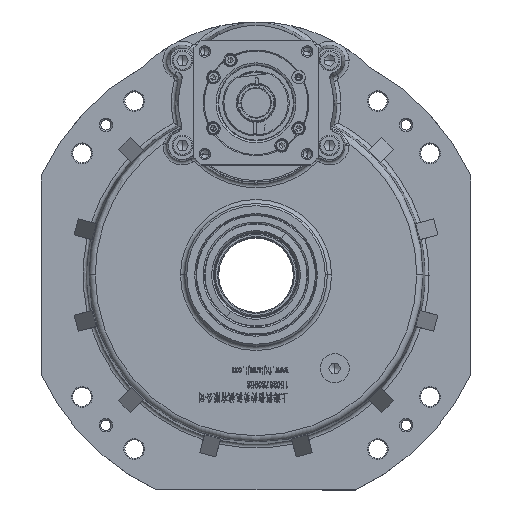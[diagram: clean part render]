
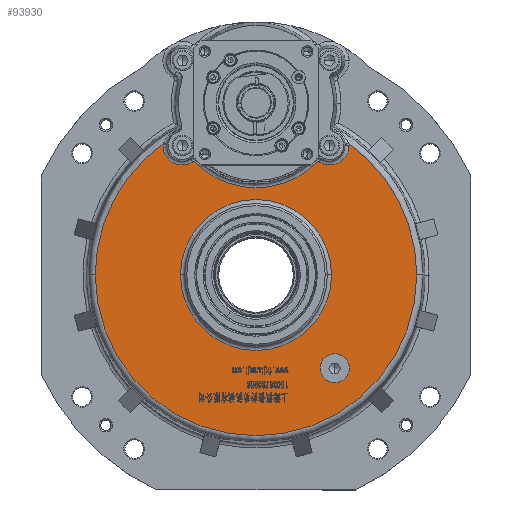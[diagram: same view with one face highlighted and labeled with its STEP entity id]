
A CAD part, top view. The second image highlights one B-rep face of the part: STEP entity #93930.
In plain terms, the highlighted planar face has unit normal (0, 0, 1).
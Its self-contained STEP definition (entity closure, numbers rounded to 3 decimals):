
#313 = ORIENTED_EDGE ( 'NONE', *, *, #89524, .F. ) ;
#2537 = VERTEX_POINT ( 'NONE', #115066 ) ;
#5298 = FACE_OUTER_BOUND ( 'NONE', #35137, .T. ) ;
#7203 = AXIS2_PLACEMENT_3D ( 'NONE', #73902, #103065, #30313 ) ;
#7934 = CARTESIAN_POINT ( 'NONE',  ( 0., 0., 45. ) ) ;
#8040 = DIRECTION ( 'NONE',  ( 0.119, -0.993, 0. ) ) ;
#8170 = CARTESIAN_POINT ( 'NONE',  ( -43.5, 45., 45. ) ) ;
#8519 = DIRECTION ( 'NONE',  ( 0., 0., 1. ) ) ;
#8626 = CARTESIAN_POINT ( 'NONE',  ( -29.972, -53.577, 45. ) ) ;
#9286 = EDGE_CURVE ( 'NONE', #73987, #28133, #55092, .T. ) ;
#9672 = DIRECTION ( 'NONE',  ( 0., 1., 0. ) ) ;
#11463 = ORIENTED_EDGE ( 'NONE', *, *, #35616, .F. ) ;
#11649 = ORIENTED_EDGE ( 'NONE', *, *, #12002, .T. ) ;
#11800 = CARTESIAN_POINT ( 'NONE',  ( -44.869, -63.316, 45. ) ) ;
#12002 = EDGE_CURVE ( 'NONE', #49464, #32630, #77954, .T. ) ;
#12073 = CARTESIAN_POINT ( 'NONE',  ( -38., 45., 45. ) ) ;
#12752 = CARTESIAN_POINT ( 'NONE',  ( 0., 0., 45. ) ) ;
#13751 = VERTEX_POINT ( 'NONE', #100613 ) ;
#13915 = DIRECTION ( 'NONE',  ( 0., 0., -1. ) ) ;
#14188 = AXIS2_PLACEMENT_3D ( 'NONE', #46638, #66286, #93171 ) ;
#14504 = DIRECTION ( 'NONE',  ( -0.119, -0.993, 0. ) ) ;
#15404 = DIRECTION ( 'NONE',  ( 0., -1., 0. ) ) ;
#17554 = DIRECTION ( 'NONE',  ( 0., 0., -1. ) ) ;
#18205 = AXIS2_PLACEMENT_3D ( 'NONE', #114276, #68907, #105303 ) ;
#18892 = CARTESIAN_POINT ( 'NONE',  ( 30.553, -54.514, 45. ) ) ;
#20435 = CIRCLE ( 'NONE', #111904, 77.603 ) ;
#20521 = CIRCLE ( 'NONE', #7203, 36.424 ) ;
#20607 = CIRCLE ( 'NONE', #41589, 9.398 ) ;
#22403 = EDGE_CURVE ( 'NONE', #32630, #49464, #63677, .T. ) ;
#22956 = CARTESIAN_POINT ( 'NONE',  ( 0., 0., 45. ) ) ;
#23382 = ORIENTED_EDGE ( 'NONE', *, *, #64246, .F. ) ;
#24430 = EDGE_CURVE ( 'NONE', #13751, #90028, #29591, .T. ) ;
#26705 = CARTESIAN_POINT ( 'NONE',  ( -38., 45., 45. ) ) ;
#26952 = CIRCLE ( 'NONE', #93593, 77.603 ) ;
#28133 = VERTEX_POINT ( 'NONE', #89286 ) ;
#28832 = DIRECTION ( 'NONE',  ( 0., 0., -1. ) ) ;
#29591 = CIRCLE ( 'NONE', #18205, 9.398 ) ;
#29913 = CARTESIAN_POINT ( 'NONE',  ( -32.5, 45., 45. ) ) ;
#30313 = DIRECTION ( 'NONE',  ( -1., 0., 0. ) ) ;
#30393 = AXIS2_PLACEMENT_3D ( 'NONE', #108705, #99741, #9672 ) ;
#31245 = DIRECTION ( 'NONE',  ( 0., 1., 0. ) ) ;
#32630 = VERTEX_POINT ( 'NONE', #8170 ) ;
#32739 = DIRECTION ( 'NONE',  ( 0., 0., -1. ) ) ;
#35137 = EDGE_LOOP ( 'NONE', ( #313, #57882, #23382, #11463, #66486, #64611, #52470, #36994, #109782 ) ) ;
#35616 = EDGE_CURVE ( 'NONE', #90028, #86304, #26952, .T. ) ;
#36994 = ORIENTED_EDGE ( 'NONE', *, *, #9286, .F. ) ;
#37316 = VERTEX_POINT ( 'NONE', #74294 ) ;
#38935 = CARTESIAN_POINT ( 'NONE',  ( 0., 0., 45. ) ) ;
#39522 = DIRECTION ( 'NONE',  ( 0., 0., -1. ) ) ;
#40265 = DIRECTION ( 'NONE',  ( 0., 0., -1. ) ) ;
#41589 = AXIS2_PLACEMENT_3D ( 'NONE', #75069, #102495, #84603 ) ;
#42828 = AXIS2_PLACEMENT_3D ( 'NONE', #8626, #17554, #8040 ) ;
#44599 = CARTESIAN_POINT ( 'NONE',  ( 36.424, 0., 45. ) ) ;
#46638 = CARTESIAN_POINT ( 'NONE',  ( 35.507, -62.5, 45. ) ) ;
#48154 = CARTESIAN_POINT ( 'NONE',  ( -77.603, 0., 45. ) ) ;
#48171 = CARTESIAN_POINT ( 'NONE',  ( -30.553, -54.514, 45. ) ) ;
#49464 = VERTEX_POINT ( 'NONE', #29913 ) ;
#52073 = CIRCLE ( 'NONE', #111084, 36.424 ) ;
#52247 = VERTEX_POINT ( 'NONE', #82720 ) ;
#52470 = ORIENTED_EDGE ( 'NONE', *, *, #113753, .F. ) ;
#52795 = EDGE_CURVE ( 'NONE', #61242, #73987, #101478, .T. ) ;
#54128 = DIRECTION ( 'NONE',  ( 1., 0., 0. ) ) ;
#55067 = ORIENTED_EDGE ( 'NONE', *, *, #88411, .F. ) ;
#55092 = CIRCLE ( 'NONE', #30393, 40.898 ) ;
#55674 = DIRECTION ( 'NONE',  ( 0., 1., 0. ) ) ;
#56063 = ORIENTED_EDGE ( 'NONE', *, *, #22403, .T. ) ;
#57882 = ORIENTED_EDGE ( 'NONE', *, *, #101078, .F. ) ;
#59624 = EDGE_LOOP ( 'NONE', ( #55067, #70164 ) ) ;
#59898 = CIRCLE ( 'NONE', #14188, 9.398 ) ;
#61242 = VERTEX_POINT ( 'NONE', #18892 ) ;
#63677 = CIRCLE ( 'NONE', #69354, 5.5 ) ;
#64246 = EDGE_CURVE ( 'NONE', #86304, #2537, #20435, .T. ) ;
#64611 = ORIENTED_EDGE ( 'NONE', *, *, #65930, .F. ) ;
#64857 = EDGE_CURVE ( 'NONE', #79961, #37316, #20521, .T. ) ;
#65930 = EDGE_CURVE ( 'NONE', #79189, #13751, #20607, .T. ) ;
#66286 = DIRECTION ( 'NONE',  ( 0., 0., 1. ) ) ;
#66486 = ORIENTED_EDGE ( 'NONE', *, *, #24430, .F. ) ;
#68907 = DIRECTION ( 'NONE',  ( 0., 0., 1. ) ) ;
#69354 = AXIS2_PLACEMENT_3D ( 'NONE', #26705, #93886, #54128 ) ;
#70164 = ORIENTED_EDGE ( 'NONE', *, *, #64857, .F. ) ;
#71498 = CARTESIAN_POINT ( 'NONE',  ( 29.185, -54.349, 45. ) ) ;
#72265 = AXIS2_PLACEMENT_3D ( 'NONE', #12073, #39522, #114073 ) ;
#73790 = AXIS2_PLACEMENT_3D ( 'NONE', #38935, #28832, #55674 ) ;
#73902 = CARTESIAN_POINT ( 'NONE',  ( 0., 0., 45. ) ) ;
#73987 = VERTEX_POINT ( 'NONE', #71498 ) ;
#74294 = CARTESIAN_POINT ( 'NONE',  ( -36.424, 0., 45. ) ) ;
#75069 = CARTESIAN_POINT ( 'NONE',  ( -35.507, -62.5, 45. ) ) ;
#77954 = CIRCLE ( 'NONE', #72265, 5.5 ) ;
#79189 = VERTEX_POINT ( 'NONE', #48171 ) ;
#79520 = CARTESIAN_POINT ( 'NONE',  ( 29.972, -53.577, 45. ) ) ;
#79961 = VERTEX_POINT ( 'NONE', #44599 ) ;
#80488 = EDGE_LOOP ( 'NONE', ( #11649, #56063 ) ) ;
#82427 = AXIS2_PLACEMENT_3D ( 'NONE', #79520, #13915, #14504 ) ;
#82720 = CARTESIAN_POINT ( 'NONE',  ( 44.869, -63.316, 45. ) ) ;
#84603 = DIRECTION ( 'NONE',  ( -0.618, 0.786, 0. ) ) ;
#86304 = VERTEX_POINT ( 'NONE', #48154 ) ;
#86983 = PLANE ( 'NONE',  #117409 ) ;
#88411 = EDGE_CURVE ( 'NONE', #37316, #79961, #52073, .T. ) ;
#89286 = CARTESIAN_POINT ( 'NONE',  ( -29.185, -54.349, 45. ) ) ;
#89524 = EDGE_CURVE ( 'NONE', #52247, #61242, #59898, .T. ) ;
#90028 = VERTEX_POINT ( 'NONE', #11800 ) ;
#93171 = DIRECTION ( 'NONE',  ( 0.618, 0.786, 0. ) ) ;
#93593 = AXIS2_PLACEMENT_3D ( 'NONE', #22956, #40265, #113035 ) ;
#93886 = DIRECTION ( 'NONE',  ( 0., 0., -1. ) ) ;
#93930 = ADVANCED_FACE ( 'NONE', ( #95945, #104898, #5298 ), #86983, .F. ) ;
#94240 = CIRCLE ( 'NONE', #42828, 1.102 ) ;
#94480 = DIRECTION ( 'NONE',  ( 0., 0., -1. ) ) ;
#95945 = FACE_BOUND ( 'NONE', #59624, .T. ) ;
#99741 = DIRECTION ( 'NONE',  ( 0., 0., 1. ) ) ;
#100613 = CARTESIAN_POINT ( 'NONE',  ( -44.905, -62.5, 45. ) ) ;
#101078 = EDGE_CURVE ( 'NONE', #2537, #52247, #104244, .T. ) ;
#101478 = CIRCLE ( 'NONE', #82427, 1.102 ) ;
#102495 = DIRECTION ( 'NONE',  ( 0., 0., 1. ) ) ;
#103065 = DIRECTION ( 'NONE',  ( 0., 0., 1. ) ) ;
#104244 = CIRCLE ( 'NONE', #73790, 77.603 ) ;
#104898 = FACE_BOUND ( 'NONE', #80488, .T. ) ;
#105303 = DIRECTION ( 'NONE',  ( -0.618, 0.786, 0. ) ) ;
#108705 = CARTESIAN_POINT ( 'NONE',  ( 0., -83., 45. ) ) ;
#108725 = DIRECTION ( 'NONE',  ( -1., 0., 0. ) ) ;
#109782 = ORIENTED_EDGE ( 'NONE', *, *, #52795, .F. ) ;
#111084 = AXIS2_PLACEMENT_3D ( 'NONE', #7934, #8519, #108725 ) ;
#111904 = AXIS2_PLACEMENT_3D ( 'NONE', #12752, #94480, #31245 ) ;
#113035 = DIRECTION ( 'NONE',  ( 0., 1., 0. ) ) ;
#113753 = EDGE_CURVE ( 'NONE', #28133, #79189, #94240, .T. ) ;
#114073 = DIRECTION ( 'NONE',  ( 1., 0., 0. ) ) ;
#114276 = CARTESIAN_POINT ( 'NONE',  ( -35.507, -62.5, 45. ) ) ;
#114462 = CARTESIAN_POINT ( 'NONE',  ( 0., 0., 45. ) ) ;
#115066 = CARTESIAN_POINT ( 'NONE',  ( 77.603, 0., 45. ) ) ;
#117409 = AXIS2_PLACEMENT_3D ( 'NONE', #114462, #32739, #15404 ) ;
